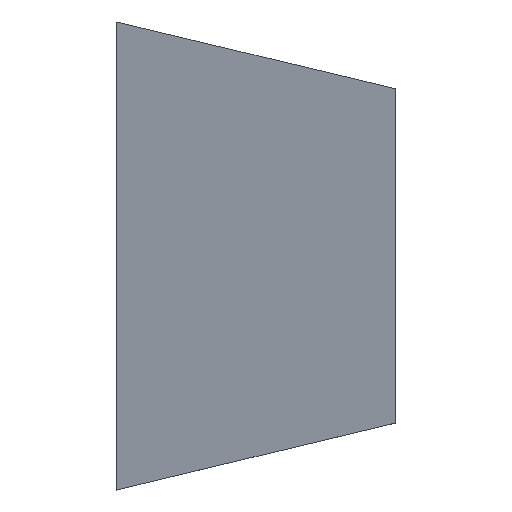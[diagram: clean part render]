
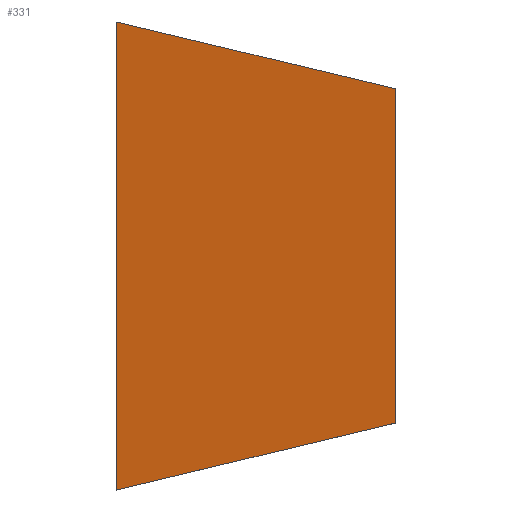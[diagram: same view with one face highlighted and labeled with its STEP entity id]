
A CAD part, top view. The second image highlights one B-rep face of the part: STEP entity #331.
In plain terms, the highlighted planar face has unit normal (-0.215, 0, 0.977).
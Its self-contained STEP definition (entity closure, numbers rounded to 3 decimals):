
#22 = VERTEX_POINT('',#23);
#23 = CARTESIAN_POINT('',(260.,-210.,-180.));
#32 = PLANE('',#33);
#33 = AXIS2_PLACEMENT_3D('',#34,#35,#36);
#34 = CARTESIAN_POINT('',(260.,-210.,-180.));
#35 = DIRECTION('',(1.,-0.,0.));
#36 = DIRECTION('',(0.,1.,0.));
#44 = PLANE('',#45);
#45 = AXIS2_PLACEMENT_3D('',#46,#47,#48);
#46 = CARTESIAN_POINT('',(510.,-150.,-125.));
#47 = DIRECTION('',(-0.233,0.972,0.));
#48 = DIRECTION('',(-0.951,-0.228,-0.209));
#85 = VERTEX_POINT('',#86);
#86 = CARTESIAN_POINT('',(260.,210.,-180.));
#100 = PLANE('',#101);
#101 = AXIS2_PLACEMENT_3D('',#102,#103,#104);
#102 = CARTESIAN_POINT('',(260.,210.,-180.));
#103 = DIRECTION('',(-0.233,-0.972,-0.));
#104 = DIRECTION('',(0.951,-0.228,0.209));
#112 = EDGE_CURVE('',#22,#85,#113,.T.);
#113 = SURFACE_CURVE('',#114,(#118,#125),.PCURVE_S1.);
#114 = LINE('',#115,#116);
#115 = CARTESIAN_POINT('',(260.,-210.,-180.));
#116 = VECTOR('',#117,1.);
#117 = DIRECTION('',(0.,1.,0.));
#118 = PCURVE('',#32,#119);
#119 = DEFINITIONAL_REPRESENTATION('',(#120),#124);
#120 = LINE('',#121,#122);
#121 = CARTESIAN_POINT('',(0.,0.));
#122 = VECTOR('',#123,1.);
#123 = DIRECTION('',(1.,0.));
#124 = ( GEOMETRIC_REPRESENTATION_CONTEXT(2) 
PARAMETRIC_REPRESENTATION_CONTEXT() REPRESENTATION_CONTEXT('2D SPACE',''
  ) );
#125 = PCURVE('',#126,#131);
#126 = PLANE('',#127);
#127 = AXIS2_PLACEMENT_3D('',#128,#129,#130);
#128 = CARTESIAN_POINT('',(372.96,0.,
    -155.149));
#129 = DIRECTION('',(0.215,-0.,-0.977));
#130 = DIRECTION('',(-0.977,0.,-0.215));
#131 = DEFINITIONAL_REPRESENTATION('',(#132),#136);
#132 = LINE('',#133,#134);
#133 = CARTESIAN_POINT('',(115.661,-210.));
#134 = VECTOR('',#135,1.);
#135 = DIRECTION('',(0.,1.));
#136 = ( GEOMETRIC_REPRESENTATION_CONTEXT(2) 
PARAMETRIC_REPRESENTATION_CONTEXT() REPRESENTATION_CONTEXT('2D SPACE',''
  ) );
#166 = VERTEX_POINT('',#167);
#167 = CARTESIAN_POINT('',(510.,150.,-125.));
#181 = PLANE('',#182);
#182 = AXIS2_PLACEMENT_3D('',#183,#184,#185);
#183 = CARTESIAN_POINT('',(510.,150.,-125.));
#184 = DIRECTION('',(-1.,-0.,-0.));
#185 = DIRECTION('',(0.,-1.,0.));
#193 = EDGE_CURVE('',#85,#166,#194,.T.);
#194 = SURFACE_CURVE('',#195,(#199,#206),.PCURVE_S1.);
#195 = LINE('',#196,#197);
#196 = CARTESIAN_POINT('',(260.,210.,-180.));
#197 = VECTOR('',#198,1.);
#198 = DIRECTION('',(0.951,-0.228,0.209));
#199 = PCURVE('',#100,#200);
#200 = DEFINITIONAL_REPRESENTATION('',(#201),#205);
#201 = LINE('',#202,#203);
#202 = CARTESIAN_POINT('',(0.,0.));
#203 = VECTOR('',#204,1.);
#204 = DIRECTION('',(1.,0.));
#205 = ( GEOMETRIC_REPRESENTATION_CONTEXT(2) 
PARAMETRIC_REPRESENTATION_CONTEXT() REPRESENTATION_CONTEXT('2D SPACE',''
  ) );
#206 = PCURVE('',#126,#207);
#207 = DEFINITIONAL_REPRESENTATION('',(#208),#212);
#208 = LINE('',#209,#210);
#209 = CARTESIAN_POINT('',(115.661,210.));
#210 = VECTOR('',#211,1.);
#211 = DIRECTION('',(-0.974,-0.228));
#212 = ( GEOMETRIC_REPRESENTATION_CONTEXT(2) 
PARAMETRIC_REPRESENTATION_CONTEXT() REPRESENTATION_CONTEXT('2D SPACE',''
  ) );
#242 = VERTEX_POINT('',#243);
#243 = CARTESIAN_POINT('',(510.,-150.,-125.));
#264 = EDGE_CURVE('',#166,#242,#265,.T.);
#265 = SURFACE_CURVE('',#266,(#270,#277),.PCURVE_S1.);
#266 = LINE('',#267,#268);
#267 = CARTESIAN_POINT('',(510.,150.,-125.));
#268 = VECTOR('',#269,1.);
#269 = DIRECTION('',(0.,-1.,0.));
#270 = PCURVE('',#181,#271);
#271 = DEFINITIONAL_REPRESENTATION('',(#272),#276);
#272 = LINE('',#273,#274);
#273 = CARTESIAN_POINT('',(0.,0.));
#274 = VECTOR('',#275,1.);
#275 = DIRECTION('',(1.,0.));
#276 = ( GEOMETRIC_REPRESENTATION_CONTEXT(2) 
PARAMETRIC_REPRESENTATION_CONTEXT() REPRESENTATION_CONTEXT('2D SPACE',''
  ) );
#277 = PCURVE('',#126,#278);
#278 = DEFINITIONAL_REPRESENTATION('',(#279),#283);
#279 = LINE('',#280,#281);
#280 = CARTESIAN_POINT('',(-140.317,150.));
#281 = VECTOR('',#282,1.);
#282 = DIRECTION('',(-0.,-1.));
#283 = ( GEOMETRIC_REPRESENTATION_CONTEXT(2) 
PARAMETRIC_REPRESENTATION_CONTEXT() REPRESENTATION_CONTEXT('2D SPACE',''
  ) );
#311 = EDGE_CURVE('',#242,#22,#312,.T.);
#312 = SURFACE_CURVE('',#313,(#317,#324),.PCURVE_S1.);
#313 = LINE('',#314,#315);
#314 = CARTESIAN_POINT('',(510.,-150.,-125.));
#315 = VECTOR('',#316,1.);
#316 = DIRECTION('',(-0.951,-0.228,-0.209));
#317 = PCURVE('',#44,#318);
#318 = DEFINITIONAL_REPRESENTATION('',(#319),#323);
#319 = LINE('',#320,#321);
#320 = CARTESIAN_POINT('',(-0.,0.));
#321 = VECTOR('',#322,1.);
#322 = DIRECTION('',(1.,0.));
#323 = ( GEOMETRIC_REPRESENTATION_CONTEXT(2) 
PARAMETRIC_REPRESENTATION_CONTEXT() REPRESENTATION_CONTEXT('2D SPACE',''
  ) );
#324 = PCURVE('',#126,#325);
#325 = DEFINITIONAL_REPRESENTATION('',(#326),#330);
#326 = LINE('',#327,#328);
#327 = CARTESIAN_POINT('',(-140.317,-150.));
#328 = VECTOR('',#329,1.);
#329 = DIRECTION('',(0.974,-0.228));
#330 = ( GEOMETRIC_REPRESENTATION_CONTEXT(2) 
PARAMETRIC_REPRESENTATION_CONTEXT() REPRESENTATION_CONTEXT('2D SPACE',''
  ) );
#331 = ADVANCED_FACE('',(#332),#126,.F.);
#332 = FACE_BOUND('',#333,.F.);
#333 = EDGE_LOOP('',(#334,#335,#336,#337));
#334 = ORIENTED_EDGE('',*,*,#112,.T.);
#335 = ORIENTED_EDGE('',*,*,#193,.T.);
#336 = ORIENTED_EDGE('',*,*,#264,.T.);
#337 = ORIENTED_EDGE('',*,*,#311,.T.);
